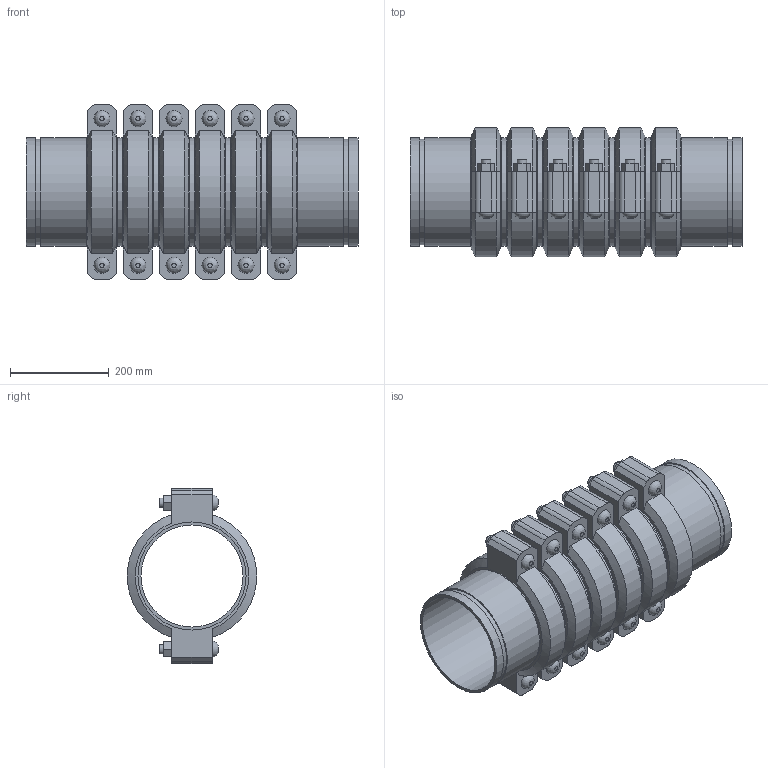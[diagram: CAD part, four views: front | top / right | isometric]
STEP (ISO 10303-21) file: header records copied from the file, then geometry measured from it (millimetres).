
FILE_DESCRIPTION(/* description */ ('VIC SS EXPANSION JOINT 6 COUPLINGS NEUTRAL STYLE 155P (OGS) (POTABLE WATER) ','CAx-IF Rec.Pracs.---Representation and Presentation of Product Manufacturing Information (PMI)---4.0---2014-10-13'),/* implementation_level */ '2;1');
FILE_NAME(/* name */ 'C:\Users\kkamble\AppData\Roaming\Autodesk\ApplicationPlugins\Victaulic.Temp\A292\Victaulic_SS_Expansion Joint_Neutral_6 Couplings_Style 155P (OGS)-Potable Water_6 Coup_Neut_8 (200).stp',/* time_stamp */ '2021-07-16T16:36:16+05:00',/* author */ ('kkamble'),/* organization */ ('Victaulic'),/* preprocessor_version */ 'ST-DEVELOPER v17.2',/* originating_system */ 'Autodesk Inventor 2019',/* authorisation */ '');
FILE_SCHEMA (('AP242_MANAGED_MODEL_BASED_3D_ENGINEERING_MIM_LF { 1 0 10303 442 1 1 4 }'));
Length unit declared in the file: inch
Products named in the file (4): 155-08.0; Nipple-08.0; Nipple-08.0_1; 075-08.0
Assembly tree (13 placements, depth 2):
  155-08.0
    Nipple-08.0  x2
    Nipple-08.0_1  x5
    075-08.0  x6
Bounding box: 673.1 x 261.72 x 354.84 mm (x, y, z)
Volume: 10643281.6 mm3; surface area: 1997504.2 mm2
Topology: 13 solids, 25 shells, 426 faces, 1008 edges, 708 vertices
Faces by surface type: plane 258, cylinder 132, cone 24, bspline 12
Full cylindrical faces by diameter (mm): 19.05 x24, 21.209 x12, 206.985 x7, 212.725 x6, 214.401 x14, 219.075 x33
Entity records: 2817 total; most frequent: CARTESIAN_POINT 497, DIRECTION 469, ORIENTED_EDGE 386, EDGE_CURVE 193, AXIS2_PLACEMENT_3D 188, VERTEX_POINT 138, EDGE_LOOP 107, LINE 93
